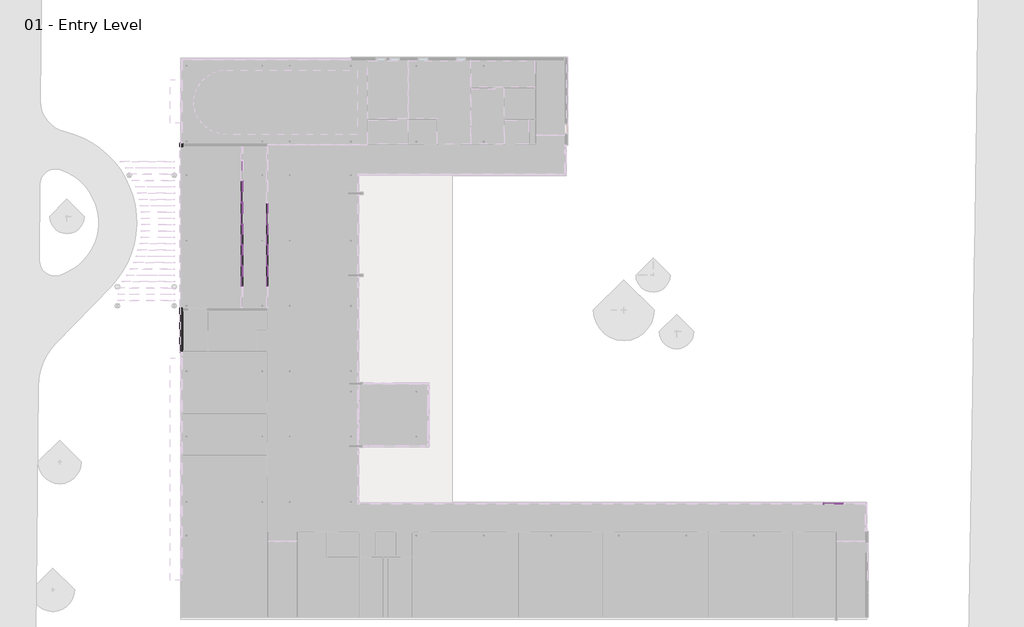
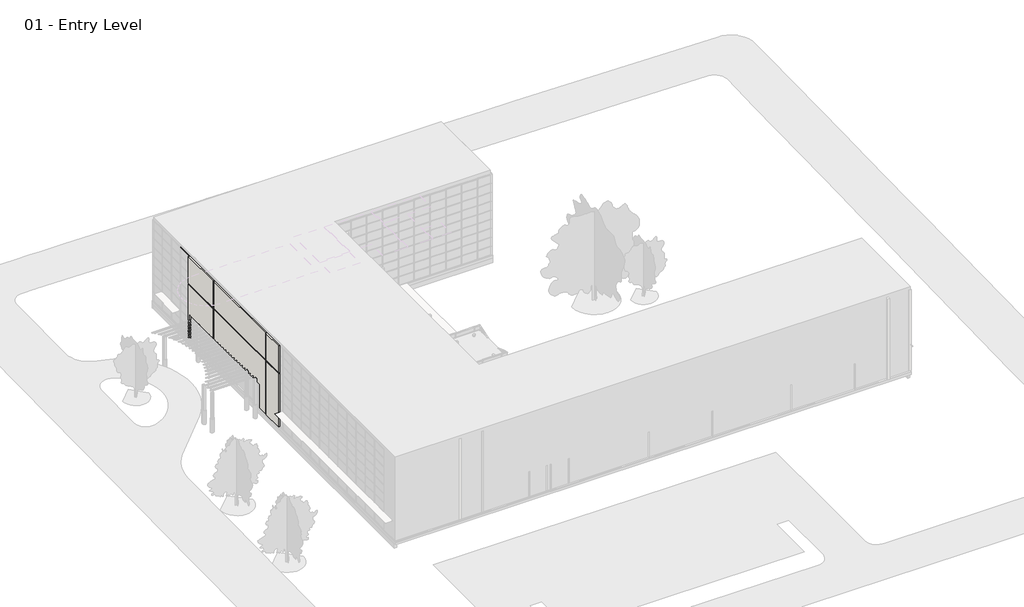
# One storey, part 22 of 35: 77 members, 36 plates, 3 doors, 1 wall.
"""IFC4 building model written with IfcOpenShell, lengths in millimetres."""

from ifc_helpers import new_model, si_unit, origin, place, context, project, spatial, faceted_brep, transform, mapped, element, save
from components import curtain_wall_dbl_glass_curtain_wall_dbl_glass_d7d74fe3, member_2b49869a, member_18e22e2d, member_9e90ae50, member_391b434c, member_75074519, member_995c57f6, member_5d67b9fc, member_0a82c195, member_a6658832, member_b37ae9b7, member_f95d5bf5, member_ec52078f, system_panel_glazed_1b9d6098, system_panel_glazed_70da479d, system_panel_glazed_c64d999e, system_panel_glazed_ebbf215a, system_panel_glazed_d3a4a7cd, system_panel_glazed_76019dd7, system_panel_glazed_96e4dd87, system_panel_glazed_3ba8046e, system_panel_glazed_56110c51, system_panel_glazed_266ebcb8

model = new_model("IFC4")

# Units and contexts
model_context = context("Model", 3, world=origin())
ifc_project = project(units=[si_unit("LENGTHUNIT", "METRE", prefix="MILLI")], contexts=[model_context])

# Site, building, storey
site = spatial("IfcSite", under=ifc_project)
building = spatial("IfcBuilding", under=site)
storey = spatial("IfcBuildingStorey", under=building, Name="01 - Entry Level", Elevation=0.0)

# Doors
placement = place(None, origin())
curtain_wall_dbl_glass_curtain_wall_dbl_glass_shape = curtain_wall_dbl_glass_curtain_wall_dbl_glass_d7d74fe3(model_context)
element("IfcDoor", 1, ObjectType="Curtain Wall Dbl Glass : Curtain Wall Dbl Glass", at=placement, inside=storey, context=model_context, shape_type="MappedRepresentation", body=[
    mapped(curtain_wall_dbl_glass_curtain_wall_dbl_glass_shape, transform((5982.6207476, 38976.225, 0.0), x_axis=(0.0, 1.0, 0.0), y_axis=(-1.0, 0.0, 0.0), z_axis=(0.0, 0.0, 1.0))),
])
element("IfcDoor", 2, ObjectType="Curtain Wall Dbl Glass : Curtain Wall Dbl Glass", at=placement, inside=storey, context=model_context, shape_type="MappedRepresentation", body=[
    mapped(curtain_wall_dbl_glass_curtain_wall_dbl_glass_shape, transform((5982.6207476, 41071.725, 0.0), x_axis=(0.0, 1.0, 0.0), y_axis=(-1.0, 0.0, 0.0), z_axis=(0.0, 0.0, 1.0))),
])
element("IfcDoor", 3, ObjectType="Curtain Wall Dbl Glass : Curtain Wall Dbl Glass", at=placement, inside=storey, context=model_context, shape_type="MappedRepresentation", body=[
    mapped(curtain_wall_dbl_glass_curtain_wall_dbl_glass_shape, transform((8421.0207476, 38976.225, 0.0), x_axis=(0.0, 1.0, 0.0), y_axis=(-1.0, 0.0, 0.0), z_axis=(0.0, 0.0, 1.0))),
])

# Members
member_shape = member_2b49869a(model_context)
element("IfcMember", 4, ObjectType="Rectangular Mullion : 2.5\" x 5\" rectangular", at=placement, inside=storey, context=model_context, shape_type="MappedRepresentation", body=[
    mapped(member_shape, transform((62040.4207476, 11001.3, 9753.6), x_axis=(-1.0, 0.0, 0.0), y_axis=(0.0, 1.0, 0.0), z_axis=(0.0, 0.0, -1.0))),
])
member_2_shape = member_18e22e2d(model_context)
element("IfcMember", 5, ObjectType="Rectangular Mullion : 2.5\" x 5\" rectangular", at=placement, inside=storey, context=model_context, shape_type="MappedRepresentation", body=[
    mapped(member_2_shape, transform((5982.6207476, 33927.975, 2438.4), x_axis=(0.0, 1.0, 0.0), y_axis=(1.0, 0.0, 0.0), z_axis=(0.0, 0.0, -1.0))),
])
element("IfcMember", 6, ObjectType="Rectangular Mullion : 2.5\" x 5\" rectangular", at=placement, inside=storey, context=model_context, shape_type="MappedRepresentation", body=[
    mapped(member_2_shape, transform((5982.6207476, 35959.975, 2438.4), x_axis=(0.0, 1.0, 0.0), y_axis=(1.0, 0.0, 0.0), z_axis=(0.0, 0.0, -1.0))),
])
element("IfcMember", 7, ObjectType="Rectangular Mullion : 2.5\" x 5\" rectangular", at=placement, inside=storey, context=model_context, shape_type="MappedRepresentation", body=[
    mapped(member_2_shape, transform((5982.6207476, 37928.475, 2438.4), x_axis=(0.0, 1.0, 0.0), y_axis=(1.0, 0.0, 0.0), z_axis=(0.0, 0.0, -1.0))),
])
element("IfcMember", 8, ObjectType="Rectangular Mullion : 2.5\" x 5\" rectangular", at=placement, inside=storey, context=model_context, shape_type="MappedRepresentation", body=[
    mapped(member_2_shape, transform((5982.6207476, 40023.975, 2438.4), x_axis=(0.0, 1.0, 0.0), y_axis=(1.0, 0.0, 0.0), z_axis=(0.0, 0.0, -1.0))),
])
element("IfcMember", 9, ObjectType="Rectangular Mullion : 2.5\" x 5\" rectangular", at=placement, inside=storey, context=model_context, shape_type="MappedRepresentation", body=[
    mapped(member_2_shape, transform((5982.6207476, 42119.475, 2438.4), x_axis=(0.0, 1.0, 0.0), y_axis=(1.0, 0.0, 0.0), z_axis=(0.0, 0.0, -1.0))),
])
element("IfcMember", 10, ObjectType="Rectangular Mullion : 2.5\" x 5\" rectangular", at=placement, inside=storey, context=model_context, shape_type="MappedRepresentation", body=[
    mapped(member_2_shape, transform((8421.0207476, 33927.975, 2438.4), x_axis=(0.0, 1.0, 0.0), y_axis=(1.0, 0.0, 0.0), z_axis=(0.0, 0.0, -1.0))),
])
element("IfcMember", 11, ObjectType="Rectangular Mullion : 2.5\" x 5\" rectangular", at=placement, inside=storey, context=model_context, shape_type="MappedRepresentation", body=[
    mapped(member_2_shape, transform((8421.0207476, 35959.975, 2438.4), x_axis=(0.0, 1.0, 0.0), y_axis=(1.0, 0.0, 0.0), z_axis=(0.0, 0.0, -1.0))),
])
element("IfcMember", 12, ObjectType="Rectangular Mullion : 2.5\" x 5\" rectangular", at=placement, inside=storey, context=model_context, shape_type="MappedRepresentation", body=[
    mapped(member_2_shape, transform((8421.0207476, 37928.475, 2438.4), x_axis=(0.0, 1.0, 0.0), y_axis=(1.0, 0.0, 0.0), z_axis=(0.0, 0.0, -1.0))),
])
member_3_shape = member_9e90ae50(model_context)
element("IfcMember", 13, ObjectType="Rectangular Mullion : 2.5\" x 5\" rectangular", at=placement, inside=storey, context=model_context, shape_type="MappedRepresentation", body=[
    mapped(member_3_shape, transform((62072.1707476, 11001.3, 9753.6), x_axis=(0.0, 0.0, 1.0), y_axis=(0.0, 1.0, 0.0), z_axis=(-1.0, 0.0, 0.0))),
])
element("IfcMember", 14, ObjectType="Rectangular Mullion : 2.5\" x 5\" rectangular", at=placement, inside=storey, context=model_context, shape_type="MappedRepresentation", body=[
    mapped(member_shape, transform((62040.4207476, 11001.3, 0.0), x_axis=(-1.0, 0.0, 0.0), y_axis=(0.0, 1.0, 0.0), z_axis=(0.0, 0.0, -1.0))),
])
element("IfcMember", 15, ObjectType="Rectangular Mullion : 2.5\" x 5\" rectangular", at=placement, inside=storey, context=model_context, shape_type="MappedRepresentation", body=[
    mapped(member_shape, transform((62040.4207476, 11001.3, 1219.2), x_axis=(-1.0, 0.0, 0.0), y_axis=(0.0, 1.0, 0.0), z_axis=(0.0, 0.0, -1.0))),
])
element("IfcMember", 16, ObjectType="Rectangular Mullion : 2.5\" x 5\" rectangular", at=placement, inside=storey, context=model_context, shape_type="MappedRepresentation", body=[
    mapped(member_shape, transform((62040.4207476, 11001.3, 2438.4), x_axis=(-1.0, 0.0, 0.0), y_axis=(0.0, 1.0, 0.0), z_axis=(0.0, 0.0, -1.0))),
])
element("IfcMember", 17, ObjectType="Rectangular Mullion : 2.5\" x 5\" rectangular", at=placement, inside=storey, context=model_context, shape_type="MappedRepresentation", body=[
    mapped(member_shape, transform((62040.4207476, 11001.3, 3657.6), x_axis=(-1.0, 0.0, 0.0), y_axis=(0.0, 1.0, 0.0), z_axis=(0.0, 0.0, -1.0))),
])
element("IfcMember", 18, ObjectType="Rectangular Mullion : 2.5\" x 5\" rectangular", at=placement, inside=storey, context=model_context, shape_type="MappedRepresentation", body=[
    mapped(member_shape, transform((62040.4207476, 11001.3, 4876.8), x_axis=(-1.0, 0.0, 0.0), y_axis=(0.0, 1.0, 0.0), z_axis=(0.0, 0.0, -1.0))),
])
element("IfcMember", 19, ObjectType="Rectangular Mullion : 2.5\" x 5\" rectangular", at=placement, inside=storey, context=model_context, shape_type="MappedRepresentation", body=[
    mapped(member_shape, transform((62040.4207476, 11001.3, 6096.0), x_axis=(-1.0, 0.0, 0.0), y_axis=(0.0, 1.0, 0.0), z_axis=(0.0, 0.0, -1.0))),
])
element("IfcMember", 20, ObjectType="Rectangular Mullion : 2.5\" x 5\" rectangular", at=placement, inside=storey, context=model_context, shape_type="MappedRepresentation", body=[
    mapped(member_shape, transform((62040.4207476, 11001.3, 7315.2), x_axis=(-1.0, 0.0, 0.0), y_axis=(0.0, 1.0, 0.0), z_axis=(0.0, 0.0, -1.0))),
])
element("IfcMember", 21, ObjectType="Rectangular Mullion : 2.5\" x 5\" rectangular", at=placement, inside=storey, context=model_context, shape_type="MappedRepresentation", body=[
    mapped(member_shape, transform((62040.4207476, 11001.3, 8534.4), x_axis=(-1.0, 0.0, 0.0), y_axis=(0.0, 1.0, 0.0), z_axis=(0.0, 0.0, -1.0))),
])
member_4_shape = member_391b434c(model_context)
element("IfcMember", 22, ObjectType="Rectangular Mullion : 2.5\" x 5\" rectangular", at=placement, inside=storey, context=model_context, shape_type="MappedRepresentation", body=[
    mapped(member_4_shape, transform((5982.6207476, 33896.225, 3403.6), x_axis=(0.0, 0.0, 1.0), y_axis=(1.0, 0.0, 0.0), z_axis=(0.0, 1.0, 0.0))),
])
element("IfcMember", 23, ObjectType="Rectangular Mullion : 2.5\" x 5\" rectangular", at=placement, inside=storey, context=model_context, shape_type="MappedRepresentation", body=[
    mapped(member_4_shape, transform((5982.6207476, 35928.225, 3403.6), x_axis=(0.0, 0.0, 1.0), y_axis=(1.0, 0.0, 0.0), z_axis=(0.0, 1.0, 0.0))),
])
element("IfcMember", 24, ObjectType="Rectangular Mullion : 2.5\" x 5\" rectangular", at=placement, inside=storey, context=model_context, shape_type="MappedRepresentation", body=[
    mapped(member_4_shape, transform((8421.0207476, 33896.225, 3403.6), x_axis=(0.0, 0.0, 1.0), y_axis=(1.0, 0.0, 0.0), z_axis=(0.0, 1.0, 0.0))),
])
element("IfcMember", 25, ObjectType="Rectangular Mullion : 2.5\" x 5\" rectangular", at=placement, inside=storey, context=model_context, shape_type="MappedRepresentation", body=[
    mapped(member_4_shape, transform((8421.0207476, 35928.225, 3403.6), x_axis=(0.0, 0.0, 1.0), y_axis=(1.0, 0.0, 0.0), z_axis=(0.0, 1.0, 0.0))),
])
element("IfcMember", 26, ObjectType="Rectangular Mullion : 2.5\" x 5\" rectangular", at=placement, inside=storey, context=model_context, shape_type="MappedRepresentation", body=[
    mapped(member_4_shape, transform((5982.6207476, 33959.725, 0.0), x_axis=(0.0, 0.0, -1.0), y_axis=(1.0, 0.0, 0.0), z_axis=(0.0, -1.0, 0.0))),
])
element("IfcMember", 27, ObjectType="Rectangular Mullion : 2.5\" x 5\" rectangular", at=placement, inside=storey, context=model_context, shape_type="MappedRepresentation", body=[
    mapped(member_4_shape, transform((8421.0207476, 33959.725, 0.0), x_axis=(0.0, 0.0, -1.0), y_axis=(1.0, 0.0, 0.0), z_axis=(0.0, -1.0, 0.0))),
])
element("IfcMember", 28, ObjectType="Rectangular Mullion : 2.5\" x 5\" rectangular", at=placement, inside=storey, context=model_context, shape_type="MappedRepresentation", body=[
    mapped(member_3_shape, transform((5982.6207476, 33896.225, 1219.2), x_axis=(0.0, 0.0, 1.0), y_axis=(1.0, 0.0, 0.0), z_axis=(0.0, 1.0, 0.0))),
])
element("IfcMember", 29, ObjectType="Rectangular Mullion : 2.5\" x 5\" rectangular", at=placement, inside=storey, context=model_context, shape_type="MappedRepresentation", body=[
    mapped(member_3_shape, transform((5982.6207476, 35928.225, 1219.2), x_axis=(0.0, 0.0, 1.0), y_axis=(1.0, 0.0, 0.0), z_axis=(0.0, 1.0, 0.0))),
])
element("IfcMember", 30, ObjectType="Rectangular Mullion : 2.5\" x 5\" rectangular", at=placement, inside=storey, context=model_context, shape_type="MappedRepresentation", body=[
    mapped(member_3_shape, transform((5982.6207476, 33896.225, 2438.4), x_axis=(0.0, 0.0, 1.0), y_axis=(1.0, 0.0, 0.0), z_axis=(0.0, 1.0, 0.0))),
])
element("IfcMember", 31, ObjectType="Rectangular Mullion : 2.5\" x 5\" rectangular", at=placement, inside=storey, context=model_context, shape_type="MappedRepresentation", body=[
    mapped(member_3_shape, transform((5982.6207476, 35928.225, 2438.4), x_axis=(0.0, 0.0, 1.0), y_axis=(1.0, 0.0, 0.0), z_axis=(0.0, 1.0, 0.0))),
])
element("IfcMember", 32, ObjectType="Rectangular Mullion : 2.5\" x 5\" rectangular", at=placement, inside=storey, context=model_context, shape_type="MappedRepresentation", body=[
    mapped(member_3_shape, transform((8421.0207476, 33896.225, 1219.2), x_axis=(0.0, 0.0, 1.0), y_axis=(1.0, 0.0, 0.0), z_axis=(0.0, 1.0, 0.0))),
])
element("IfcMember", 33, ObjectType="Rectangular Mullion : 2.5\" x 5\" rectangular", at=placement, inside=storey, context=model_context, shape_type="MappedRepresentation", body=[
    mapped(member_3_shape, transform((8421.0207476, 35928.225, 1219.2), x_axis=(0.0, 0.0, 1.0), y_axis=(1.0, 0.0, 0.0), z_axis=(0.0, 1.0, 0.0))),
])
element("IfcMember", 34, ObjectType="Rectangular Mullion : 2.5\" x 5\" rectangular", at=placement, inside=storey, context=model_context, shape_type="MappedRepresentation", body=[
    mapped(member_3_shape, transform((8421.0207476, 33896.225, 2438.4), x_axis=(0.0, 0.0, 1.0), y_axis=(1.0, 0.0, 0.0), z_axis=(0.0, 1.0, 0.0))),
])
element("IfcMember", 35, ObjectType="Rectangular Mullion : 2.5\" x 5\" rectangular", at=placement, inside=storey, context=model_context, shape_type="MappedRepresentation", body=[
    mapped(member_3_shape, transform((8421.0207476, 35928.225, 2438.4), x_axis=(0.0, 0.0, 1.0), y_axis=(1.0, 0.0, 0.0), z_axis=(0.0, 1.0, 0.0))),
])
element("IfcMember", 36, ObjectType="Rectangular Mullion : 2.5\" x 5\" rectangular", at=placement, inside=storey, context=model_context, shape_type="MappedRepresentation", body=[
    mapped(member_shape, transform((5982.6207476, 33927.975, 0.0), x_axis=(0.0, 1.0, 0.0), y_axis=(1.0, 0.0, 0.0), z_axis=(0.0, 0.0, -1.0))),
])
element("IfcMember", 37, ObjectType="Rectangular Mullion : 2.5\" x 5\" rectangular", at=placement, inside=storey, context=model_context, shape_type="MappedRepresentation", body=[
    mapped(member_shape, transform((5982.6207476, 35959.975, 0.0), x_axis=(0.0, 1.0, 0.0), y_axis=(1.0, 0.0, 0.0), z_axis=(0.0, 0.0, -1.0))),
])
element("IfcMember", 38, ObjectType="Rectangular Mullion : 2.5\" x 5\" rectangular", at=placement, inside=storey, context=model_context, shape_type="MappedRepresentation", body=[
    mapped(member_shape, transform((5982.6207476, 37928.475, 0.0), x_axis=(0.0, 1.0, 0.0), y_axis=(1.0, 0.0, 0.0), z_axis=(0.0, 0.0, -1.0))),
])
element("IfcMember", 39, ObjectType="Rectangular Mullion : 2.5\" x 5\" rectangular", at=placement, inside=storey, context=model_context, shape_type="MappedRepresentation", body=[
    mapped(member_shape, transform((5982.6207476, 42119.475, 0.0), x_axis=(0.0, 1.0, 0.0), y_axis=(1.0, 0.0, 0.0), z_axis=(0.0, 0.0, -1.0))),
])
element("IfcMember", 40, ObjectType="Rectangular Mullion : 2.5\" x 5\" rectangular", at=placement, inside=storey, context=model_context, shape_type="MappedRepresentation", body=[
    mapped(member_shape, transform((8421.0207476, 33927.975, 0.0), x_axis=(0.0, 1.0, 0.0), y_axis=(1.0, 0.0, 0.0), z_axis=(0.0, 0.0, -1.0))),
])
element("IfcMember", 41, ObjectType="Rectangular Mullion : 2.5\" x 5\" rectangular", at=placement, inside=storey, context=model_context, shape_type="MappedRepresentation", body=[
    mapped(member_shape, transform((8421.0207476, 35959.975, 0.0), x_axis=(0.0, 1.0, 0.0), y_axis=(1.0, 0.0, 0.0), z_axis=(0.0, 0.0, -1.0))),
])
element("IfcMember", 42, ObjectType="Rectangular Mullion : 2.5\" x 5\" rectangular", at=placement, inside=storey, context=model_context, shape_type="MappedRepresentation", body=[
    mapped(member_shape, transform((8421.0207476, 37928.475, 0.0), x_axis=(0.0, 1.0, 0.0), y_axis=(1.0, 0.0, 0.0), z_axis=(0.0, 0.0, -1.0))),
])
member_5_shape = member_75074519(model_context)
element("IfcMember", 43, ObjectType="Rectangular Mullion : 2.5\" x 5\" rectangular", at=placement, inside=storey, context=model_context, shape_type="MappedRepresentation", body=[
    mapped(member_5_shape, transform((178.7207476, 45735.8, 0.0), x_axis=(0.0, -1.0, 0.0), y_axis=(-1.0, 0.0, 0.0), z_axis=(0.0, 0.0, -1.0))),
])
element("IfcMember", 44, ObjectType="Rectangular Mullion : 2.5\" x 5\" rectangular", at=placement, inside=storey, context=model_context, shape_type="MappedRepresentation", body=[
    mapped(member_5_shape, transform((178.7207476, 45735.8, 1219.2), x_axis=(0.0, -1.0, 0.0), y_axis=(-1.0, 0.0, 0.0), z_axis=(0.0, 0.0, -1.0))),
])
element("IfcMember", 45, ObjectType="Rectangular Mullion : 2.5\" x 5\" rectangular", at=placement, inside=storey, context=model_context, shape_type="MappedRepresentation", body=[
    mapped(member_shape, transform((5982.6207476, 40023.975, 0.0), x_axis=(0.0, 1.0, 0.0), y_axis=(1.0, 0.0, 0.0), z_axis=(0.0, 0.0, -1.0))),
])
member_6_shape = member_995c57f6(model_context)
element("IfcMember", 46, ObjectType="Rectangular Mullion : 2.5\" x 5\" rectangular", at=placement, inside=storey, context=model_context, shape_type="MappedRepresentation", body=[
    mapped(member_6_shape, transform((178.7207476, 45799.3, 10972.8), x_axis=(0.0, 0.0, 1.0), y_axis=(-1.0, 0.0, 0.0), z_axis=(0.0, -1.0, 0.0))),
])
member_7_shape = member_5d67b9fc(model_context)
element("IfcMember", 47, ObjectType="Rectangular Mullion : 2.5\" x 5\" rectangular", at=placement, inside=storey, context=model_context, shape_type="MappedRepresentation", body=[
    mapped(member_7_shape, transform((5982.6207476, 37928.475, 2165.35), x_axis=(0.0, 1.0, 0.0), y_axis=(1.0, 0.0, 0.0), z_axis=(0.0, 0.0, -1.0))),
])
element("IfcMember", 48, ObjectType="Rectangular Mullion : 2.5\" x 5\" rectangular", at=placement, inside=storey, context=model_context, shape_type="MappedRepresentation", body=[
    mapped(member_7_shape, transform((5982.6207476, 40023.975, 2165.35), x_axis=(0.0, 1.0, 0.0), y_axis=(1.0, 0.0, 0.0), z_axis=(0.0, 0.0, -1.0))),
])
element("IfcMember", 49, ObjectType="Rectangular Mullion : 2.5\" x 5\" rectangular", at=placement, inside=storey, context=model_context, shape_type="MappedRepresentation", body=[
    mapped(member_7_shape, transform((5982.6207476, 42119.475, 2165.35), x_axis=(0.0, 1.0, 0.0), y_axis=(1.0, 0.0, 0.0), z_axis=(0.0, 0.0, -1.0))),
])
element("IfcMember", 50, ObjectType="Rectangular Mullion : 2.5\" x 5\" rectangular", at=placement, inside=storey, context=model_context, shape_type="MappedRepresentation", body=[
    mapped(member_7_shape, transform((8421.0207476, 37928.475, 2165.35), x_axis=(0.0, 1.0, 0.0), y_axis=(1.0, 0.0, 0.0), z_axis=(0.0, 0.0, -1.0))),
])
element("IfcMember", 51, ObjectType="Rectangular Mullion : 2.5\" x 5\" rectangular", at=placement, inside=storey, context=model_context, shape_type="MappedRepresentation", body=[
    mapped(member_7_shape, transform((5982.6207476, 33927.975, 2165.35), x_axis=(0.0, 1.0, 0.0), y_axis=(1.0, 0.0, 0.0), z_axis=(0.0, 0.0, -1.0))),
])
element("IfcMember", 52, ObjectType="Rectangular Mullion : 2.5\" x 5\" rectangular", at=placement, inside=storey, context=model_context, shape_type="MappedRepresentation", body=[
    mapped(member_7_shape, transform((5982.6207476, 35959.975, 2165.35), x_axis=(0.0, 1.0, 0.0), y_axis=(1.0, 0.0, 0.0), z_axis=(0.0, 0.0, -1.0))),
])
element("IfcMember", 53, ObjectType="Rectangular Mullion : 2.5\" x 5\" rectangular", at=placement, inside=storey, context=model_context, shape_type="MappedRepresentation", body=[
    mapped(member_7_shape, transform((8421.0207476, 33927.975, 2165.35), x_axis=(0.0, 1.0, 0.0), y_axis=(1.0, 0.0, 0.0), z_axis=(0.0, 0.0, -1.0))),
])
element("IfcMember", 54, ObjectType="Rectangular Mullion : 2.5\" x 5\" rectangular", at=placement, inside=storey, context=model_context, shape_type="MappedRepresentation", body=[
    mapped(member_7_shape, transform((8421.0207476, 35959.975, 2165.35), x_axis=(0.0, 1.0, 0.0), y_axis=(1.0, 0.0, 0.0), z_axis=(0.0, 0.0, -1.0))),
])
member_8_shape = member_0a82c195(model_context)
element("IfcMember", 55, ObjectType="Rectangular Mullion : 2.5\" x 5\" rectangular", at=placement, inside=storey, context=model_context, shape_type="MappedRepresentation", body=[
    mapped(member_8_shape, transform((5982.6207476, 39992.225, 3403.6), x_axis=(0.0, 0.0, 1.0), y_axis=(1.0, 0.0, 0.0), z_axis=(0.0, 1.0, 0.0))),
])
element("IfcMember", 56, ObjectType="Rectangular Mullion : 2.5\" x 5\" rectangular", at=placement, inside=storey, context=model_context, shape_type="MappedRepresentation", body=[
    mapped(member_8_shape, transform((5982.6207476, 42087.725, 3403.6), x_axis=(0.0, 0.0, 1.0), y_axis=(1.0, 0.0, 0.0), z_axis=(0.0, 1.0, 0.0))),
])
element("IfcMember", 57, ObjectType="Rectangular Mullion : 2.5\" x 5\" rectangular", at=placement, inside=storey, context=model_context, shape_type="MappedRepresentation", body=[
    mapped(member_8_shape, transform((8421.0207476, 39992.225, 3403.6), x_axis=(0.0, 0.0, 1.0), y_axis=(1.0, 0.0, 0.0), z_axis=(0.0, 1.0, 0.0))),
])
member_9_shape = member_a6658832(model_context)
element("IfcMember", 58, ObjectType="Rectangular Mullion : 2.5\" x 5\" rectangular", at=placement, inside=storey, context=model_context, shape_type="MappedRepresentation", body=[
    mapped(member_9_shape, transform((5982.6207476, 37896.725, 3403.6), x_axis=(0.0, 0.0, 1.0), y_axis=(1.0, 0.0, 0.0), z_axis=(0.0, 1.0, 0.0))),
])
element("IfcMember", 59, ObjectType="Rectangular Mullion : 2.5\" x 5\" rectangular", at=placement, inside=storey, context=model_context, shape_type="MappedRepresentation", body=[
    mapped(member_9_shape, transform((8421.0207476, 37896.725, 3403.6), x_axis=(0.0, 0.0, 1.0), y_axis=(1.0, 0.0, 0.0), z_axis=(0.0, 1.0, 0.0))),
])
element("IfcMember", 60, ObjectType="Rectangular Mullion : 2.5\" x 5\" rectangular", at=placement, inside=storey, context=model_context, shape_type="MappedRepresentation", body=[
    mapped(member_9_shape, transform((5982.6207476, 35991.725, 0.0), x_axis=(0.0, 0.0, -1.0), y_axis=(1.0, 0.0, 0.0), z_axis=(0.0, -1.0, 0.0))),
])
element("IfcMember", 61, ObjectType="Rectangular Mullion : 2.5\" x 5\" rectangular", at=placement, inside=storey, context=model_context, shape_type="MappedRepresentation", body=[
    mapped(member_9_shape, transform((5982.6207476, 42151.225, 0.0), x_axis=(0.0, 0.0, -1.0), y_axis=(1.0, 0.0, 0.0), z_axis=(0.0, -1.0, 0.0))),
])
element("IfcMember", 62, ObjectType="Rectangular Mullion : 2.5\" x 5\" rectangular", at=placement, inside=storey, context=model_context, shape_type="MappedRepresentation", body=[
    mapped(member_9_shape, transform((8421.0207476, 35991.725, 0.0), x_axis=(0.0, 0.0, -1.0), y_axis=(1.0, 0.0, 0.0), z_axis=(0.0, -1.0, 0.0))),
])
member_10_shape = member_b37ae9b7(model_context)
element("IfcMember", 63, ObjectType="Rectangular Mullion : 2.5\" x 5\" rectangular", at=placement, inside=storey, context=model_context, shape_type="MappedRepresentation", body=[
    mapped(member_10_shape, transform((5982.6207476, 37896.725, 1219.2), x_axis=(0.0, 0.0, 1.0), y_axis=(1.0, 0.0, 0.0), z_axis=(0.0, 1.0, 0.0))),
])
element("IfcMember", 64, ObjectType="Rectangular Mullion : 2.5\" x 5\" rectangular", at=placement, inside=storey, context=model_context, shape_type="MappedRepresentation", body=[
    mapped(member_10_shape, transform((5982.6207476, 37896.725, 2438.4), x_axis=(0.0, 0.0, 1.0), y_axis=(1.0, 0.0, 0.0), z_axis=(0.0, 1.0, 0.0))),
])
element("IfcMember", 65, ObjectType="Rectangular Mullion : 2.5\" x 5\" rectangular", at=placement, inside=storey, context=model_context, shape_type="MappedRepresentation", body=[
    mapped(member_10_shape, transform((8421.0207476, 37896.725, 1219.2), x_axis=(0.0, 0.0, 1.0), y_axis=(1.0, 0.0, 0.0), z_axis=(0.0, 1.0, 0.0))),
])
element("IfcMember", 66, ObjectType="Rectangular Mullion : 2.5\" x 5\" rectangular", at=placement, inside=storey, context=model_context, shape_type="MappedRepresentation", body=[
    mapped(member_10_shape, transform((8421.0207476, 37896.725, 2438.4), x_axis=(0.0, 0.0, 1.0), y_axis=(1.0, 0.0, 0.0), z_axis=(0.0, 1.0, 0.0))),
])
member_11_shape = member_f95d5bf5(model_context)
element("IfcMember", 67, ObjectType="Rectangular Mullion : 2.5\" x 5\" rectangular", at=placement, inside=storey, context=model_context, shape_type="MappedRepresentation", body=[
    mapped(member_11_shape, transform((5982.6207476, 39992.225, 2438.4), x_axis=(0.0, 0.0, 1.0), y_axis=(1.0, 0.0, 0.0), z_axis=(0.0, 1.0, 0.0))),
])
element("IfcMember", 68, ObjectType="Rectangular Mullion : 2.5\" x 5\" rectangular", at=placement, inside=storey, context=model_context, shape_type="MappedRepresentation", body=[
    mapped(member_11_shape, transform((5982.6207476, 42087.725, 2438.4), x_axis=(0.0, 0.0, 1.0), y_axis=(1.0, 0.0, 0.0), z_axis=(0.0, 1.0, 0.0))),
])
element("IfcMember", 69, ObjectType="Rectangular Mullion : 2.5\" x 5\" rectangular", at=placement, inside=storey, context=model_context, shape_type="MappedRepresentation", body=[
    mapped(member_11_shape, transform((5982.6207476, 42087.725, 2165.35), x_axis=(0.0, 0.0, 1.0), y_axis=(1.0, 0.0, 0.0), z_axis=(0.0, 1.0, 0.0))),
])
element("IfcMember", 70, ObjectType="Rectangular Mullion : 2.5\" x 5\" rectangular", at=placement, inside=storey, context=model_context, shape_type="MappedRepresentation", body=[
    mapped(member_11_shape, transform((5982.6207476, 39992.225, 2165.35), x_axis=(0.0, 0.0, 1.0), y_axis=(1.0, 0.0, 0.0), z_axis=(0.0, 1.0, 0.0))),
])
element("IfcMember", 71, ObjectType="Rectangular Mullion : 2.5\" x 5\" rectangular", at=placement, inside=storey, context=model_context, shape_type="MappedRepresentation", body=[
    mapped(member_11_shape, transform((8421.0207476, 39992.225, 2438.4), x_axis=(0.0, 0.0, 1.0), y_axis=(1.0, 0.0, 0.0), z_axis=(0.0, 1.0, 0.0))),
])
element("IfcMember", 72, ObjectType="Rectangular Mullion : 2.5\" x 5\" rectangular", at=placement, inside=storey, context=model_context, shape_type="MappedRepresentation", body=[
    mapped(member_11_shape, transform((8421.0207476, 39992.225, 2165.35), x_axis=(0.0, 0.0, 1.0), y_axis=(1.0, 0.0, 0.0), z_axis=(0.0, 1.0, 0.0))),
])
member_12_shape = member_ec52078f(model_context)
element("IfcMember", 73, ObjectType="Rectangular Mullion : 2.5\" x 5\" rectangular", at=placement, inside=storey, context=model_context, shape_type="MappedRepresentation", body=[
    mapped(member_12_shape, transform((5982.6207476, 33927.975, 1219.2), x_axis=(0.0, 1.0, 0.0), y_axis=(1.0, 0.0, 0.0), z_axis=(0.0, 0.0, -1.0))),
])
element("IfcMember", 74, ObjectType="Rectangular Mullion : 2.5\" x 5\" rectangular", at=placement, inside=storey, context=model_context, shape_type="MappedRepresentation", body=[
    mapped(member_12_shape, transform((5982.6207476, 35959.975, 1219.2), x_axis=(0.0, 1.0, 0.0), y_axis=(1.0, 0.0, 0.0), z_axis=(0.0, 0.0, -1.0))),
])
element("IfcMember", 75, ObjectType="Rectangular Mullion : 2.5\" x 5\" rectangular", at=placement, inside=storey, context=model_context, shape_type="MappedRepresentation", body=[
    mapped(member_12_shape, transform((8421.0207476, 33927.975, 1219.2), x_axis=(0.0, 1.0, 0.0), y_axis=(1.0, 0.0, 0.0), z_axis=(0.0, 0.0, -1.0))),
])
element("IfcMember", 76, ObjectType="Rectangular Mullion : 2.5\" x 5\" rectangular", at=placement, inside=storey, context=model_context, shape_type="MappedRepresentation", body=[
    mapped(member_12_shape, transform((8421.0207476, 35959.975, 1219.2), x_axis=(0.0, 1.0, 0.0), y_axis=(1.0, 0.0, 0.0), z_axis=(0.0, 0.0, -1.0))),
])
element("IfcMember", 77, ObjectType="Rectangular Mullion : 2.5\" x 5\" rectangular", at=placement, inside=storey, context=model_context, shape_type="MappedRepresentation", body=[
    mapped(member_12_shape, transform((5982.6207476, 40023.975, 1219.2), x_axis=(0.0, 1.0, 0.0), y_axis=(1.0, 0.0, 0.0), z_axis=(0.0, 0.0, -1.0))),
])
element("IfcMember", 78, ObjectType="Rectangular Mullion : 2.5\" x 5\" rectangular", at=placement, inside=storey, context=model_context, shape_type="MappedRepresentation", body=[
    mapped(member_12_shape, transform((5982.6207476, 37928.475, 1219.2), x_axis=(0.0, 1.0, 0.0), y_axis=(1.0, 0.0, 0.0), z_axis=(0.0, 0.0, -1.0))),
])
element("IfcMember", 79, ObjectType="Rectangular Mullion : 2.5\" x 5\" rectangular", at=placement, inside=storey, context=model_context, shape_type="MappedRepresentation", body=[
    mapped(member_12_shape, transform((5982.6207476, 42119.475, 1219.2), x_axis=(0.0, 1.0, 0.0), y_axis=(1.0, 0.0, 0.0), z_axis=(0.0, 0.0, -1.0))),
])
element("IfcMember", 80, ObjectType="Rectangular Mullion : 2.5\" x 5\" rectangular", at=placement, inside=storey, context=model_context, shape_type="MappedRepresentation", body=[
    mapped(member_12_shape, transform((8421.0207476, 37928.475, 1219.2), x_axis=(0.0, 1.0, 0.0), y_axis=(1.0, 0.0, 0.0), z_axis=(0.0, 0.0, -1.0))),
])

# Plates
system_panel_glazed_shape = system_panel_glazed_1b9d6098(model_context)
element("IfcPlate", 81, ObjectType="System Panel : Glazed", at=placement, inside=storey, context=model_context, shape_type="MappedRepresentation", body=[
    mapped(system_panel_glazed_shape, transform((63056.4207476, 11001.3, 63.5), x_axis=(-1.0, 0.0, 0.0), y_axis=(0.0, -1.0, 0.0), z_axis=(0.0, 0.0, 1.0))),
])
element("IfcPlate", 82, ObjectType="System Panel : Glazed", at=placement, inside=storey, context=model_context, shape_type="MappedRepresentation", body=[
    mapped(system_panel_glazed_shape, transform((63056.4207476, 11001.3, 9785.35), x_axis=(-1.0, 0.0, 0.0), y_axis=(0.0, -1.0, 0.0), z_axis=(0.0, 0.0, 1.0))),
])
system_panel_glazed_2_shape = system_panel_glazed_70da479d(model_context)
element("IfcPlate", 83, ObjectType="System Panel : Glazed", at=placement, inside=storey, context=model_context, shape_type="MappedRepresentation", body=[
    mapped(system_panel_glazed_2_shape, transform((63056.4207476, 11001.3, 1250.95), x_axis=(-1.0, 0.0, 0.0), y_axis=(0.0, -1.0, 0.0), z_axis=(0.0, 0.0, 1.0))),
])
element("IfcPlate", 84, ObjectType="System Panel : Glazed", at=placement, inside=storey, context=model_context, shape_type="MappedRepresentation", body=[
    mapped(system_panel_glazed_2_shape, transform((63056.4207476, 11001.3, 2470.15), x_axis=(-1.0, 0.0, 0.0), y_axis=(0.0, -1.0, 0.0), z_axis=(0.0, 0.0, 1.0))),
])
element("IfcPlate", 85, ObjectType="System Panel : Glazed", at=placement, inside=storey, context=model_context, shape_type="MappedRepresentation", body=[
    mapped(system_panel_glazed_2_shape, transform((63056.4207476, 11001.3, 3689.35), x_axis=(-1.0, 0.0, 0.0), y_axis=(0.0, -1.0, 0.0), z_axis=(0.0, 0.0, 1.0))),
])
element("IfcPlate", 86, ObjectType="System Panel : Glazed", at=placement, inside=storey, context=model_context, shape_type="MappedRepresentation", body=[
    mapped(system_panel_glazed_2_shape, transform((63056.4207476, 11001.3, 4908.55), x_axis=(-1.0, 0.0, 0.0), y_axis=(0.0, -1.0, 0.0), z_axis=(0.0, 0.0, 1.0))),
])
element("IfcPlate", 87, ObjectType="System Panel : Glazed", at=placement, inside=storey, context=model_context, shape_type="MappedRepresentation", body=[
    mapped(system_panel_glazed_2_shape, transform((63056.4207476, 11001.3, 6127.75), x_axis=(-1.0, 0.0, 0.0), y_axis=(0.0, -1.0, 0.0), z_axis=(0.0, 0.0, 1.0))),
])
element("IfcPlate", 88, ObjectType="System Panel : Glazed", at=placement, inside=storey, context=model_context, shape_type="MappedRepresentation", body=[
    mapped(system_panel_glazed_2_shape, transform((63056.4207476, 11001.3, 7346.95), x_axis=(-1.0, 0.0, 0.0), y_axis=(0.0, -1.0, 0.0), z_axis=(0.0, 0.0, 1.0))),
])
element("IfcPlate", 89, ObjectType="System Panel : Glazed", at=placement, inside=storey, context=model_context, shape_type="MappedRepresentation", body=[
    mapped(system_panel_glazed_2_shape, transform((63056.4207476, 11001.3, 8566.15), x_axis=(-1.0, 0.0, 0.0), y_axis=(0.0, -1.0, 0.0), z_axis=(0.0, 0.0, 1.0))),
])
system_panel_glazed_3_shape = system_panel_glazed_c64d999e(model_context)
element("IfcPlate", 90, ObjectType="System Panel : Glazed", at=placement, inside=storey, context=model_context, shape_type="MappedRepresentation", body=[
    mapped(system_panel_glazed_3_shape, transform((5982.6207476, 32911.975, 63.5), x_axis=(0.0, 1.0, 0.0), y_axis=(-1.0, 0.0, 0.0), z_axis=(0.0, 0.0, 1.0))),
])
element("IfcPlate", 91, ObjectType="System Panel : Glazed", at=placement, inside=storey, context=model_context, shape_type="MappedRepresentation", body=[
    mapped(system_panel_glazed_3_shape, transform((5982.6207476, 34943.975, 63.5), x_axis=(0.0, 1.0, 0.0), y_axis=(-1.0, 0.0, 0.0), z_axis=(0.0, 0.0, 1.0))),
])
element("IfcPlate", 92, ObjectType="System Panel : Glazed", at=placement, inside=storey, context=model_context, shape_type="MappedRepresentation", body=[
    mapped(system_panel_glazed_3_shape, transform((8421.0207476, 32911.975, 63.5), x_axis=(0.0, 1.0, 0.0), y_axis=(-1.0, 0.0, 0.0), z_axis=(0.0, 0.0, 1.0))),
])
element("IfcPlate", 93, ObjectType="System Panel : Glazed", at=placement, inside=storey, context=model_context, shape_type="MappedRepresentation", body=[
    mapped(system_panel_glazed_3_shape, transform((8421.0207476, 34943.975, 63.5), x_axis=(0.0, 1.0, 0.0), y_axis=(-1.0, 0.0, 0.0), z_axis=(0.0, 0.0, 1.0))),
])
system_panel_glazed_4_shape = system_panel_glazed_ebbf215a(model_context)
element("IfcPlate", 94, ObjectType="System Panel : Glazed", at=placement, inside=storey, context=model_context, shape_type="MappedRepresentation", body=[
    mapped(system_panel_glazed_4_shape, transform((5982.6207476, 32911.975, 2470.15), x_axis=(0.0, 1.0, 0.0), y_axis=(-1.0, 0.0, 0.0), z_axis=(0.0, 0.0, 1.0))),
])
element("IfcPlate", 95, ObjectType="System Panel : Glazed", at=placement, inside=storey, context=model_context, shape_type="MappedRepresentation", body=[
    mapped(system_panel_glazed_4_shape, transform((5982.6207476, 34943.975, 2470.15), x_axis=(0.0, 1.0, 0.0), y_axis=(-1.0, 0.0, 0.0), z_axis=(0.0, 0.0, 1.0))),
])
element("IfcPlate", 96, ObjectType="System Panel : Glazed", at=placement, inside=storey, context=model_context, shape_type="MappedRepresentation", body=[
    mapped(system_panel_glazed_4_shape, transform((8421.0207476, 32911.975, 2470.15), x_axis=(0.0, 1.0, 0.0), y_axis=(-1.0, 0.0, 0.0), z_axis=(0.0, 0.0, 1.0))),
])
element("IfcPlate", 97, ObjectType="System Panel : Glazed", at=placement, inside=storey, context=model_context, shape_type="MappedRepresentation", body=[
    mapped(system_panel_glazed_4_shape, transform((8421.0207476, 34943.975, 2470.15), x_axis=(0.0, 1.0, 0.0), y_axis=(-1.0, 0.0, 0.0), z_axis=(0.0, 0.0, 1.0))),
])
system_panel_glazed_5_shape = system_panel_glazed_d3a4a7cd(model_context)
element("IfcPlate", 98, ObjectType="System Panel : Glazed", at=placement, inside=storey, context=model_context, shape_type="MappedRepresentation", body=[
    mapped(system_panel_glazed_5_shape, transform((5982.6207476, 36944.225, 63.5), x_axis=(0.0, 1.0, 0.0), y_axis=(-1.0, 0.0, 0.0), z_axis=(0.0, 0.0, 1.0))),
])
element("IfcPlate", 99, ObjectType="System Panel : Glazed", at=placement, inside=storey, context=model_context, shape_type="MappedRepresentation", body=[
    mapped(system_panel_glazed_5_shape, transform((5982.6207476, 43103.725, 63.5), x_axis=(0.0, 1.0, 0.0), y_axis=(-1.0, 0.0, 0.0), z_axis=(0.0, 0.0, 1.0))),
])
element("IfcPlate", 100, ObjectType="System Panel : Glazed", at=placement, inside=storey, context=model_context, shape_type="MappedRepresentation", body=[
    mapped(system_panel_glazed_5_shape, transform((8421.0207476, 36944.225, 63.5), x_axis=(0.0, 1.0, 0.0), y_axis=(-1.0, 0.0, 0.0), z_axis=(0.0, 0.0, 1.0))),
])
system_panel_glazed_6_shape = system_panel_glazed_76019dd7(model_context)
element("IfcPlate", 101, ObjectType="System Panel : Glazed", at=placement, inside=storey, context=model_context, shape_type="MappedRepresentation", body=[
    mapped(system_panel_glazed_6_shape, transform((5982.6207476, 38976.225, 2470.15), x_axis=(0.0, 1.0, 0.0), y_axis=(-1.0, 0.0, 0.0), z_axis=(0.0, 0.0, 1.0))),
])
element("IfcPlate", 102, ObjectType="System Panel : Glazed", at=placement, inside=storey, context=model_context, shape_type="MappedRepresentation", body=[
    mapped(system_panel_glazed_6_shape, transform((5982.6207476, 41071.725, 2470.15), x_axis=(0.0, 1.0, 0.0), y_axis=(-1.0, 0.0, 0.0), z_axis=(0.0, 0.0, 1.0))),
])
element("IfcPlate", 103, ObjectType="System Panel : Glazed", at=placement, inside=storey, context=model_context, shape_type="MappedRepresentation", body=[
    mapped(system_panel_glazed_6_shape, transform((8421.0207476, 38976.225, 2470.15), x_axis=(0.0, 1.0, 0.0), y_axis=(-1.0, 0.0, 0.0), z_axis=(0.0, 0.0, 1.0))),
])
system_panel_glazed_7_shape = system_panel_glazed_96e4dd87(model_context)
element("IfcPlate", 104, ObjectType="System Panel : Glazed", at=placement, inside=storey, context=model_context, shape_type="MappedRepresentation", body=[
    mapped(system_panel_glazed_7_shape, transform((5982.6207476, 36944.225, 2470.15), x_axis=(0.0, 1.0, 0.0), y_axis=(-1.0, 0.0, 0.0), z_axis=(0.0, 0.0, 1.0))),
])
element("IfcPlate", 105, ObjectType="System Panel : Glazed", at=placement, inside=storey, context=model_context, shape_type="MappedRepresentation", body=[
    mapped(system_panel_glazed_7_shape, transform((5982.6207476, 43103.725, 2470.15), x_axis=(0.0, 1.0, 0.0), y_axis=(-1.0, 0.0, 0.0), z_axis=(0.0, 0.0, 1.0))),
])
element("IfcPlate", 106, ObjectType="System Panel : Glazed", at=placement, inside=storey, context=model_context, shape_type="MappedRepresentation", body=[
    mapped(system_panel_glazed_7_shape, transform((8421.0207476, 36944.225, 2470.15), x_axis=(0.0, 1.0, 0.0), y_axis=(-1.0, 0.0, 0.0), z_axis=(0.0, 0.0, 1.0))),
])
system_panel_glazed_8_shape = system_panel_glazed_3ba8046e(model_context)
element("IfcPlate", 107, ObjectType="System Panel : Glazed", at=placement, inside=storey, context=model_context, shape_type="MappedRepresentation", body=[
    mapped(system_panel_glazed_8_shape, transform((5982.6207476, 32911.975, 1250.95), x_axis=(0.0, 1.0, 0.0), y_axis=(-1.0, 0.0, 0.0), z_axis=(0.0, 0.0, 1.0))),
])
element("IfcPlate", 108, ObjectType="System Panel : Glazed", at=placement, inside=storey, context=model_context, shape_type="MappedRepresentation", body=[
    mapped(system_panel_glazed_8_shape, transform((5982.6207476, 34943.975, 1250.95), x_axis=(0.0, 1.0, 0.0), y_axis=(-1.0, 0.0, 0.0), z_axis=(0.0, 0.0, 1.0))),
])
element("IfcPlate", 109, ObjectType="System Panel : Glazed", at=placement, inside=storey, context=model_context, shape_type="MappedRepresentation", body=[
    mapped(system_panel_glazed_8_shape, transform((8421.0207476, 32911.975, 1250.95), x_axis=(0.0, 1.0, 0.0), y_axis=(-1.0, 0.0, 0.0), z_axis=(0.0, 0.0, 1.0))),
])
element("IfcPlate", 110, ObjectType="System Panel : Glazed", at=placement, inside=storey, context=model_context, shape_type="MappedRepresentation", body=[
    mapped(system_panel_glazed_8_shape, transform((8421.0207476, 34943.975, 1250.95), x_axis=(0.0, 1.0, 0.0), y_axis=(-1.0, 0.0, 0.0), z_axis=(0.0, 0.0, 1.0))),
])
system_panel_glazed_9_shape = system_panel_glazed_56110c51(model_context)
element("IfcPlate", 111, ObjectType="System Panel : Glazed", at=placement, inside=storey, context=model_context, shape_type="MappedRepresentation", body=[
    mapped(system_panel_glazed_9_shape, transform((5982.6207476, 36944.225, 1250.95), x_axis=(0.0, 1.0, 0.0), y_axis=(-1.0, 0.0, 0.0), z_axis=(0.0, 0.0, 1.0))),
])
element("IfcPlate", 112, ObjectType="System Panel : Glazed", at=placement, inside=storey, context=model_context, shape_type="MappedRepresentation", body=[
    mapped(system_panel_glazed_9_shape, transform((5982.6207476, 43103.725, 1250.95), x_axis=(0.0, 1.0, 0.0), y_axis=(-1.0, 0.0, 0.0), z_axis=(0.0, 0.0, 1.0))),
])
element("IfcPlate", 113, ObjectType="System Panel : Glazed", at=placement, inside=storey, context=model_context, shape_type="MappedRepresentation", body=[
    mapped(system_panel_glazed_9_shape, transform((8421.0207476, 36944.225, 1250.95), x_axis=(0.0, 1.0, 0.0), y_axis=(-1.0, 0.0, 0.0), z_axis=(0.0, 0.0, 1.0))),
])
system_panel_glazed_10_shape = system_panel_glazed_266ebcb8(model_context)
element("IfcPlate", 114, ObjectType="System Panel : Glazed", at=placement, inside=storey, context=model_context, shape_type="MappedRepresentation", body=[
    mapped(system_panel_glazed_10_shape, transform((5982.6207476, 38976.225, 2197.1), x_axis=(0.0, 1.0, 0.0), y_axis=(-1.0, 0.0, 0.0), z_axis=(0.0, 0.0, 1.0))),
])
element("IfcPlate", 115, ObjectType="System Panel : Glazed", at=placement, inside=storey, context=model_context, shape_type="MappedRepresentation", body=[
    mapped(system_panel_glazed_10_shape, transform((5982.6207476, 41071.725, 2197.1), x_axis=(0.0, 1.0, 0.0), y_axis=(-1.0, 0.0, 0.0), z_axis=(0.0, 0.0, 1.0))),
])
element("IfcPlate", 116, ObjectType="System Panel : Glazed", at=placement, inside=storey, context=model_context, shape_type="MappedRepresentation", body=[
    mapped(system_panel_glazed_10_shape, transform((8421.0207476, 38976.225, 2197.1), x_axis=(0.0, 1.0, 0.0), y_axis=(-1.0, 0.0, 0.0), z_axis=(0.0, 0.0, 1.0))),
])

# Wall
element("IfcWall", 117, ObjectType="Exterior - EIFS on CMU", at=placement, inside=storey, context=model_context, shape_type="Brep", body=[
    faceted_brep([(-27.6542524, 45735.8, 0.0), (-27.6542524, 45427.825, 0.0), (-27.6542524, 45427.825, 3200.4), (-27.6542524, 40173.2, 3200.4), (-27.6542524, 40173.2, 7239.0), (-27.6542524, 45735.8, 7239.0), (-27.6542524, 29863.975, 3200.4), (-27.6542524, 29863.975, 0.0), (-27.6542524, 28590.8, 0.0), (-27.6542524, 28590.8, 7239.0), (-27.6542524, 40097.0, 7239.0), (-27.6542524, 40097.0, 3200.4), (-27.6542524, 25638.05, 7315.2), (-27.6542524, 25638.05, 10972.8), (-27.6542524, 28514.6, 10972.8), (-27.6542524, 28514.6, 7315.2), (-27.6542524, 25638.05, 0.0), (-27.6542524, 25638.05, 7239.0), (-27.6542524, 28514.6, 7239.0), (-27.6542524, 28514.6, 0.0), (-27.6542524, 45735.8, 10972.8), (-27.6542524, 45735.8, 7315.2), (-27.6542524, 40173.2, 7315.2), (-27.6542524, 40173.2, 10972.8), (-27.6542524, 40097.0, 10972.8), (-27.6542524, 40097.0, 7315.2), (-27.6542524, 28590.8, 7315.2), (-27.6542524, 28590.8, 10972.8), (280.3207476, 45735.8, 10972.8), (280.3207476, 41805.15, 10972.8), (280.3207476, 41690.85, 10972.8), (280.3207476, 33778.75, 10972.8), (280.3207476, 33664.45, 10972.8), (280.3207476, 28520.95, 10972.8), (280.3207476, 28406.65, 10972.8), (280.3207476, 25752.35, 10972.8), (280.3207476, 25638.05, 10972.8), (280.3207476, 25638.05, 7315.2), (280.3207476, 25638.05, 3403.6), (280.3207476, 25638.05, 0.0), (280.3207476, 25752.35, 0.0), (280.3207476, 29556.0, 0.0), (280.3207476, 29863.975, 0.0), (280.3207476, 29863.975, 3200.4), (280.3207476, 45427.825, 3200.4), (280.3207476, 45427.825, 0.0), (280.3207476, 45735.8, 0.0), (280.3207476, 45735.8, 3657.6), (23.1457476, 28514.6, 0.0), (23.1457476, 28590.8, 0.0), (23.1457476, 40173.2, 10972.8), (23.1457476, 40097.0, 10972.8), (23.1457476, 28590.8, 10972.8), (23.1457476, 28514.6, 10972.8), (23.1457476, 45735.8, 7239.0), (23.1457476, 45735.8, 7315.2), (23.1457476, 40097.0, 3200.4), (23.1457476, 40173.2, 3200.4), (23.1457476, 25638.05, 7315.2), (23.1457476, 25638.05, 7239.0), (23.1457476, 40173.2, 7239.0), (23.1457476, 40097.0, 7239.0), (23.1457476, 28590.8, 7239.0), (23.1457476, 28514.6, 7239.0), (23.1457476, 28514.6, 7315.2), (23.1457476, 28590.8, 7315.2), (23.1457476, 40097.0, 7315.2), (23.1457476, 40173.2, 7315.2)], [[[0, 1, 2, 3, 4, 5]], [[6, 7, 8, 9, 10, 11]], [[12, 13, 14, 15]], [[16, 17, 18, 19]], [[20, 21, 22, 23]], [[24, 25, 26, 27]], [[28, 29, 30, 31, 32, 33, 34, 35, 36, 37, 38, 39, 40, 41, 42, 43, 44, 45, 46, 47]], [[0, 46, 45, 1]], [[42, 41, 40, 39, 16, 19, 48, 49, 8, 7]], [[36, 35, 34, 33, 32, 31, 30, 29, 28, 20, 23, 50, 51, 24, 27, 52, 53, 14, 13]], [[28, 47, 46, 0, 5, 54, 55, 21, 20]], [[44, 43, 6, 11, 56, 57, 3, 2]], [[44, 2, 1, 45]], [[6, 43, 42, 7]], [[16, 39, 38, 37, 36, 13, 12, 58, 59, 17]], [[55, 54, 60, 57, 56, 61, 62, 49, 48, 63, 59, 58, 64, 53, 52, 65, 66, 51, 50, 67]], [[54, 5, 4, 60]], [[17, 59, 63, 18]], [[61, 10, 9, 62]], [[21, 55, 67, 22]], [[58, 12, 15, 64]], [[25, 66, 65, 26]], [[67, 50, 23, 22]], [[57, 60, 4, 3]], [[51, 66, 25, 24]], [[61, 56, 11, 10]], [[65, 52, 27, 26]], [[49, 62, 9, 8]], [[53, 64, 15, 14]], [[63, 48, 19, 18]]]),
])

save(model, "model.ifc")
